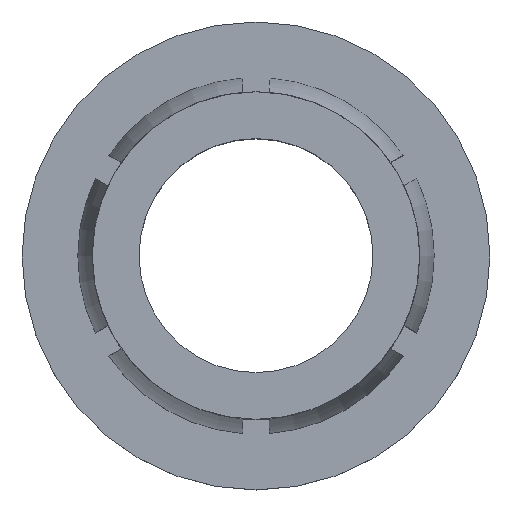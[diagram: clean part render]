
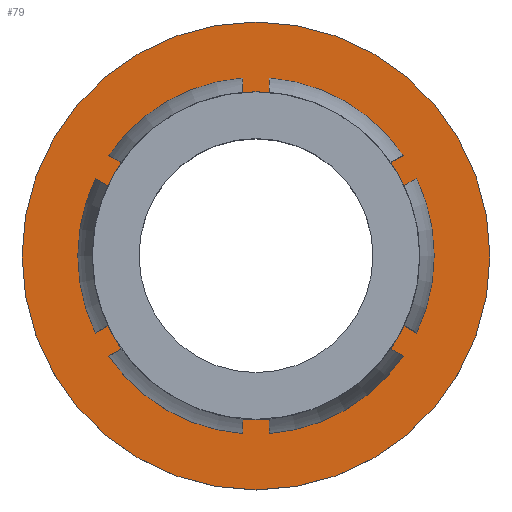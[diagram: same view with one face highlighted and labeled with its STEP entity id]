
A CAD part, top view. The second image highlights one B-rep face of the part: STEP entity #79.
In plain terms, the highlighted planar face has unit normal (0, 0, 1).
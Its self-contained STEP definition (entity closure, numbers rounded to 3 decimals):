
#79 = ADVANCED_FACE ( 'NONE', ( #1062, #1061 ), #1162, .F. ) ;
#120 = CARTESIAN_POINT ( 'NONE',  ( 6.134, 0., -19.643 ) ) ;
#151 = CARTESIAN_POINT ( 'NONE',  ( 13.134, 0., -19.643 ) ) ;
#170 = DIRECTION ( 'NONE',  ( 0., 0., -1. ) ) ;
#285 = DIRECTION ( 'NONE',  ( -1., 0., 0. ) ) ;
#289 = EDGE_LOOP ( 'NONE', ( #1471 ) ) ;
#301 = CARTESIAN_POINT ( 'NONE',  ( 6.134, 0., -19.643 ) ) ;
#410 = EDGE_CURVE ( 'NONE', #581, #581, #758, .T. ) ;
#423 = DIRECTION ( 'NONE',  ( -1., 0., 0. ) ) ;
#446 = EDGE_CURVE ( 'NONE', #538, #538, #742, .T. ) ;
#538 = VERTEX_POINT ( 'NONE', #1137 ) ;
#581 = VERTEX_POINT ( 'NONE', #1048 ) ;
#742 = CIRCLE ( 'NONE', #1182, 4.899 ) ;
#758 = CIRCLE ( 'NONE', #763, 7. ) ;
#763 = AXIS2_PLACEMENT_3D ( 'NONE', #120, #1000, #285 ) ;
#1000 = DIRECTION ( 'NONE',  ( 0., 0., -1. ) ) ;
#1048 = CARTESIAN_POINT ( 'NONE',  ( -0.866, 0., -19.643 ) ) ;
#1061 = FACE_OUTER_BOUND ( 'NONE', #1195, .T. ) ;
#1062 = FACE_BOUND ( 'NONE', #289, .T. ) ;
#1133 = DIRECTION ( 'NONE',  ( 0., 0., -1. ) ) ;
#1137 = CARTESIAN_POINT ( 'NONE',  ( 1.235, 0., -19.643 ) ) ;
#1155 = DIRECTION ( 'NONE',  ( -1., 0., 0. ) ) ;
#1162 = PLANE ( 'NONE',  #1228 ) ;
#1182 = AXIS2_PLACEMENT_3D ( 'NONE', #301, #1133, #423 ) ;
#1195 = EDGE_LOOP ( 'NONE', ( #1470 ) ) ;
#1228 = AXIS2_PLACEMENT_3D ( 'NONE', #151, #170, #1155 ) ;
#1470 = ORIENTED_EDGE ( 'NONE', *, *, #410, .F. ) ;
#1471 = ORIENTED_EDGE ( 'NONE', *, *, #446, .T. ) ;
